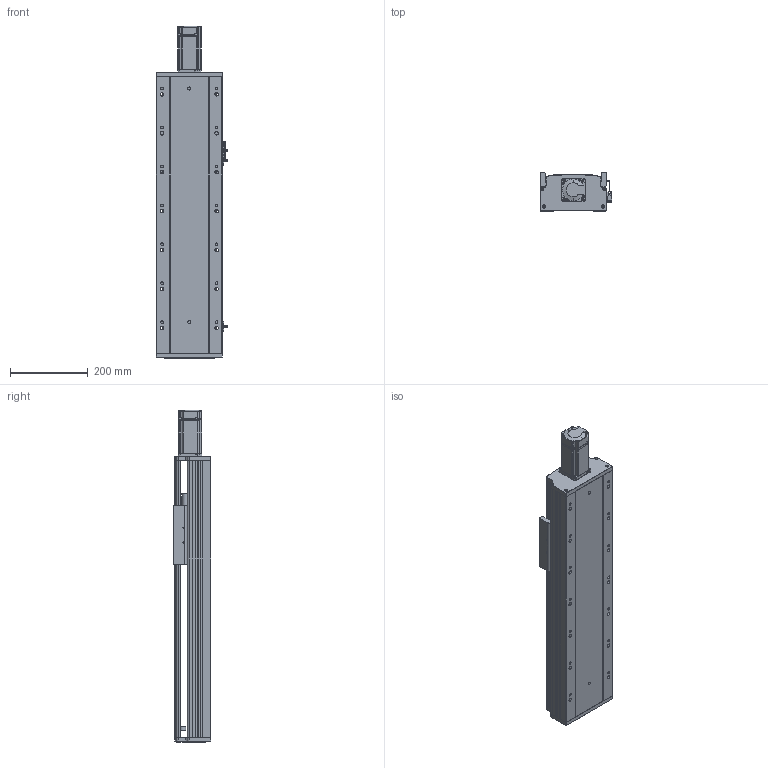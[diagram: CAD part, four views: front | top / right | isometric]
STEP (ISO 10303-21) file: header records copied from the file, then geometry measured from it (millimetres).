
FILE_DESCRIPTION (( 'STEP AP203' ), '1' );
FILE_NAME ('RY170-L2020-300-MK.SLDASM_400.step', '2021-02-20T03:50:33', ( '盈信电脑' ), ( '东莞市道滘镇水果街19号' ), 'SwSTEP 2.0', 'SolidWorks 2012', '' );
FILE_SCHEMA (( 'CONFIG_CONTROL_DESIGN' ));
Products named in the file (12): RY170-L2020-300-MK.SLDASM_400; RY170外置感应片(200共用）; RY170ヶ醱裔啣; 滅袉蝶18-28; 滅袉蝶18-10; 覜茼ん672; RY170綴裔啣; 侂狟400W侜督萇儂; RY170臏賑輸20佪裝蹟譫; RY170-300倰第菁釱-MK_400; 15; RY170-300倰第裔啣-MK_400
Assembly tree (13 placements, depth 3):
  RY170-L2020-300-MK.SLDASM_400
    RY170-300倰第菁釱-MK_400
    RY170-300倰第裔啣-MK_400
    RY170臏賑輸20佪裝蹟譫
    侂狟400W侜督萇儂
      15
    RY170綴裔啣
    覜茼ん672  x3
    RY170外置感应片(200共用）
    RY170ヶ醱裔啣
    滅袉蝶18-28
    滅袉蝶18-10
Bounding box: 183.7 x 97 x 852.5 mm (x, y, z)
Volume: 4201787.2 mm3; surface area: 1287948.8 mm2
Topology: 12 solids, 12 shells, 2102 faces, 6016 edges, 3902 vertices
Faces by surface type: plane 1166, cylinder 756, cone 151, bspline 29
Entity records: 66685 total; most frequent: CARTESIAN_POINT 14739, ORIENTED_EDGE 10868, DIRECTION 10273, EDGE_CURVE 5434, VERTEX_POINT 3582, LINE 3525, VECTOR 3525, AXIS2_PLACEMENT_3D 3374
